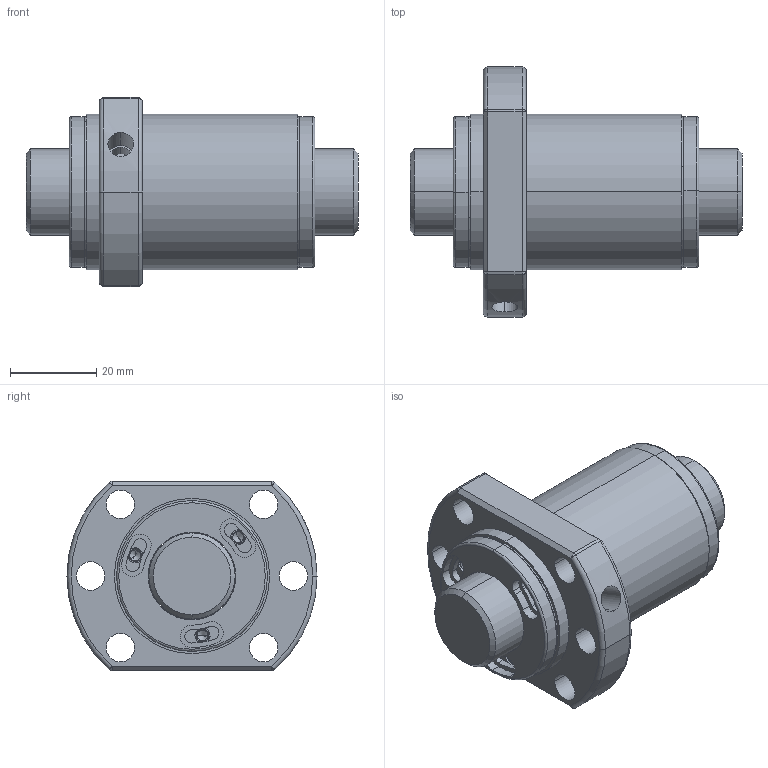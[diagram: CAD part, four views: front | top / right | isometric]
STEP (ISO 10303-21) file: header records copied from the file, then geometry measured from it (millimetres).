
FILE_DESCRIPTION (( 'STEP AP203' ), '1' );
FILE_NAME ('SFHR02010C1D-C.STEP', '2020-06-17T07:57:46', ( '' ), ( '' ), 'SwSTEP 2.0', 'SolidWorks 2013', '' );
FILE_SCHEMA (( 'CONFIG_CONTROL_DESIGN' ));
Length unit declared in the file: millimetre
Products named in the file (1): SFHR02010C1D-C
Bounding box: 77 x 58 x 44 mm (x, y, z)
Volume: 70048.7 mm3; surface area: 22017 mm2
Topology: 2 solids, 2 shells, 237 faces, 563 edges, 340 vertices
Faces by surface type: cylinder 129, plane 62, cone 28, torus 10, bspline 8
Entity records: 7300 total; most frequent: CARTESIAN_POINT 1569, DIRECTION 1335, ORIENTED_EDGE 1086, AXIS2_PLACEMENT_3D 574, EDGE_CURVE 543, CIRCLE 344, VERTEX_POINT 340, EDGE_LOOP 283
